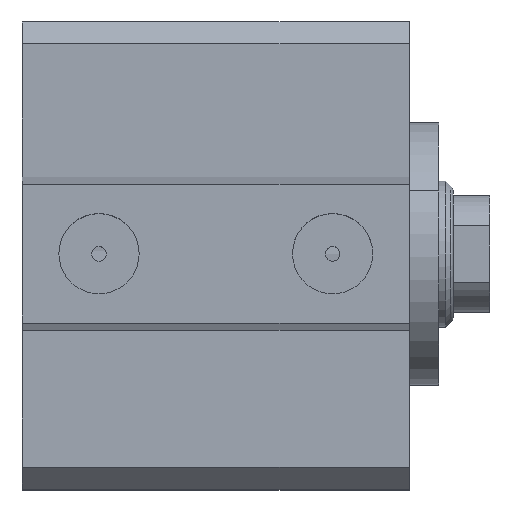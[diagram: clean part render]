
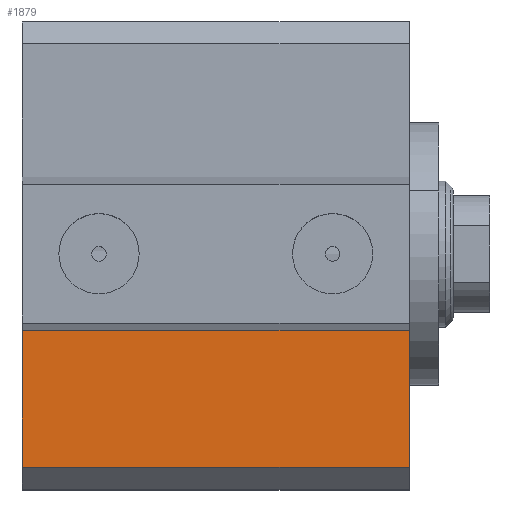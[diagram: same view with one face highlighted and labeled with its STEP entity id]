
A CAD part, top view. The second image highlights one B-rep face of the part: STEP entity #1879.
In plain terms, the highlighted planar face has unit normal (0, 0, 1).
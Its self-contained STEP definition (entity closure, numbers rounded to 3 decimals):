
#996=CARTESIAN_POINT('Vertex',(0.,-29.25,31.75)) ;
#999=CARTESIAN_POINT('Line Origine',(0.,-19.875,31.75)) ;
#1003=CARTESIAN_POINT('Vertex',(0.,-10.5,31.75)) ;
#1217=CARTESIAN_POINT('Vertex',(53.,-10.5,31.75)) ;
#1220=CARTESIAN_POINT('Line Origine',(53.,-19.875,31.75)) ;
#1224=CARTESIAN_POINT('Vertex',(53.,-29.25,31.75)) ;
#1764=CARTESIAN_POINT('Axis2P3D Location',(0.,10.5,31.75)) ;
#1856=CARTESIAN_POINT('Line Origine',(26.5,-10.5,31.75)) ;
#1868=CARTESIAN_POINT('Line Origine',(26.5,-29.25,31.75)) ;
#1000=DIRECTION('Vector Direction',(0.,1.,0.)) ;
#1221=DIRECTION('Vector Direction',(0.,1.,0.)) ;
#1765=DIRECTION('Axis2P3D Direction',(0.,0.,-1.)) ;
#1766=DIRECTION('Axis2P3D XDirection',(0.,1.,0.)) ;
#1857=DIRECTION('Vector Direction',(1.,0.,0.)) ;
#1869=DIRECTION('Vector Direction',(1.,0.,0.)) ;
#1767=AXIS2_PLACEMENT_3D('Plane Axis2P3D',#1764,#1765,#1766) ;
#1874=ORIENTED_EDGE('',*,*,#1860,.F.) ;
#1875=ORIENTED_EDGE('',*,*,#1005,.T.) ;
#1876=ORIENTED_EDGE('',*,*,#1872,.T.) ;
#1877=ORIENTED_EDGE('',*,*,#1226,.F.) ;
#1001=VECTOR('Line Direction',#1000,1.) ;
#1222=VECTOR('Line Direction',#1221,1.) ;
#1858=VECTOR('Line Direction',#1857,1.) ;
#1870=VECTOR('Line Direction',#1869,1.) ;
#1879=ADVANCED_FACE('PartBody',(#1878),#1768,.F.) ;
#1005=EDGE_CURVE('',#1004,#997,#1002,.F.) ;
#1226=EDGE_CURVE('',#1218,#1225,#1223,.F.) ;
#1860=EDGE_CURVE('',#1004,#1218,#1859,.T.) ;
#1872=EDGE_CURVE('',#997,#1225,#1871,.T.) ;
#1873=EDGE_LOOP('',(#1874,#1875,#1876,#1877)) ;
#1878=FACE_OUTER_BOUND('',#1873,.T.) ;
#1002=LINE('Line',#999,#1001) ;
#1223=LINE('Line',#1220,#1222) ;
#1859=LINE('Line',#1856,#1858) ;
#1871=LINE('Line',#1868,#1870) ;
#1768=PLANE('',#1767) ;
#997=VERTEX_POINT('',#996) ;
#1004=VERTEX_POINT('',#1003) ;
#1218=VERTEX_POINT('',#1217) ;
#1225=VERTEX_POINT('',#1224) ;
